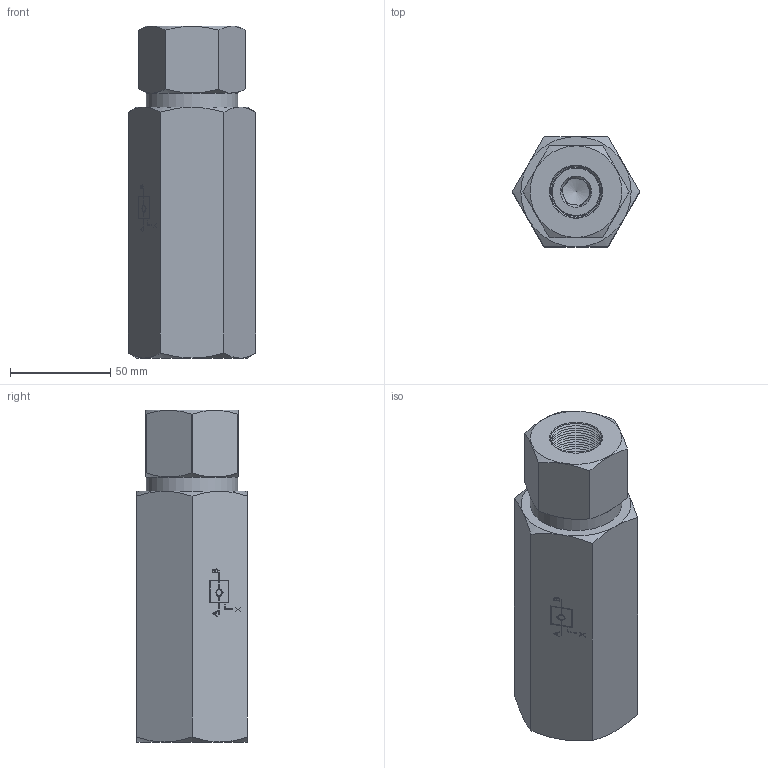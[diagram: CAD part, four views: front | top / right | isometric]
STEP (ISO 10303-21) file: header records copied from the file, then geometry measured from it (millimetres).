
FILE_DESCRIPTION (( 'STEP AP214' ), '1' );
FILE_NAME ('257-7-34.STEP', '2025-01-23T08:25:06', ( '' ), ( '' ), 'SwSTEP 2.0', 'SolidWorks 2024', '' );
FILE_SCHEMA (( 'AUTOMOTIVE_DESIGN' ));
Length unit declared in the file: millimetre
Products named in the file (9): MOLLA 2 BAR  257-6.009.00.0-34_COMPRESSA; 257-7-34; OR 3143; CONNESSIONE UNIDIREZIONALE 257-7.033.00.0-34; VALVOLA UNIDIREZIONALE PILOTATA 257-7.041.00.0-34; FONDELLO FILETTATO 257-5.010.00.0-34; VALVOLA TENUTA METALLICA 257-5.008.00.0-34; CORPO VALVOLA 257-7.001.00.0-34; PISTONE PILOTAGGIO 257-7.019.00.1-34
Assembly tree (8 placements, depth 3):
  257-7-34
    CORPO VALVOLA 257-7.001.00.0-34
    OR 3143
    PISTONE PILOTAGGIO 257-7.019.00.1-34
    VALVOLA UNIDIREZIONALE PILOTATA 257-7.041.00.0-34
      CONNESSIONE UNIDIREZIONALE 257-7.033.00.0-34
      FONDELLO FILETTATO 257-5.010.00.0-34
      VALVOLA TENUTA METALLICA 257-5.008.00.0-34
      MOLLA 2 BAR  257-6.009.00.0-34_COMPRESSA
Bounding box: 63.51 x 55 x 165.5 mm (x, y, z)
Volume: 335792.3 mm3; surface area: 88839.4 mm2
Topology: 7 solids, 7 shells, 659 faces, 1549 edges, 960 vertices
Faces by surface type: plane 280, cone 240, cylinder 73, bspline 63, torus 3
Full cylindrical faces by diameter (mm): 3.024 x1, 5 x6, 7 x5, 14 x3, 17.5 x1, 18.2 x4, 18.3 x1, 19 x8, 22.8 x4, 23.5 x6, 24.5 x1, 25 x1, 27 x1, 27.053 x1, 34.2 x4, 35 x6, 36.8 x1, 37 x1, 38 x2, 45.7 x1
Entity records: 22881 total; most frequent: CARTESIAN_POINT 9248, DIRECTION 2600, ORIENTED_EDGE 2430, EDGE_CURVE 1215, EDGE_LOOP 1030, AXIS2_PLACEMENT_3D 979, VERTEX_POINT 913, FACE_OUTER_BOUND 720
